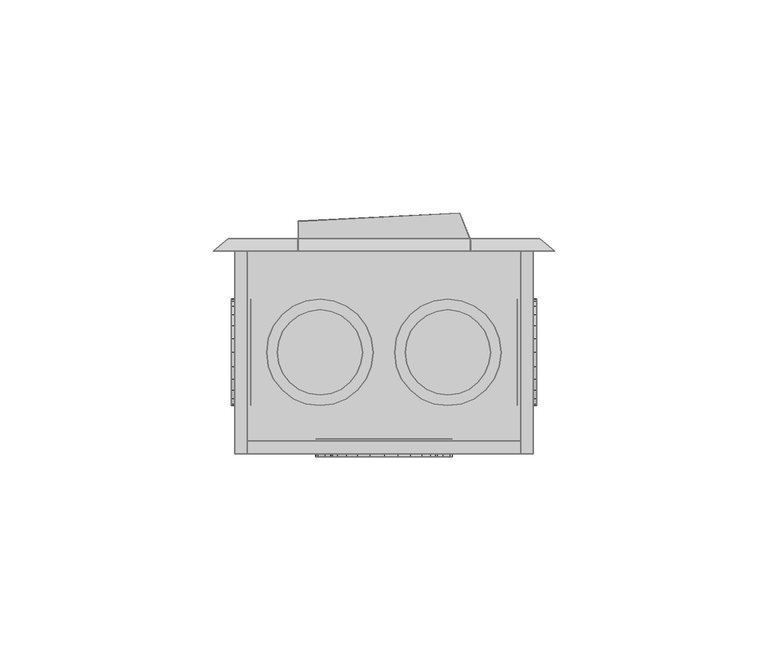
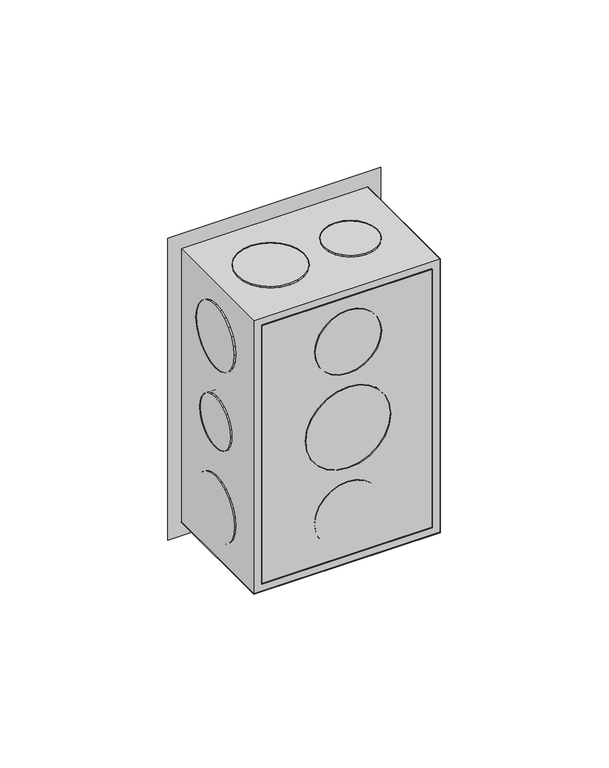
"""IFC4 building model written with IfcOpenShell, lengths in millimetres: proxy geometry,  210487 :  210487."""

from ifc_helpers import new_model, si_unit, origin, place, context, project, spatial, triangles, source, transform, mapped, element, save


def generic_models_b771cfa3(model_context):
    return source(origin(), model_context, "Body", "Tessellation", [
        triangles([(31550.4997742, 15395.4998108, 1254.3000378), (31553.4995911, 15395.4998108, 1148.7000154), (31550.4997742, 15395.4998108, 1145.6999805), (31553.4995911, 15395.4998108, 1251.2999302), (31620.5001526, 15395.4998108, 1254.3000378), (31617.5003357, 15395.4998108, 1251.2999302), (31620.5001526, 15395.4998108, 1145.6999805), (31617.5003357, 15395.4998108, 1148.7000154), (31553.4995911, 15348.0003845, 1251.2999302), (31553.4995911, 15348.0003845, 1148.7000154), (31620.5001526, 15348.0003845, 1254.3000378), (31620.5001526, 15348.0003845, 1145.6999805), (31617.5003357, 15348.0003845, 1251.2999302), (31550.4997742, 15348.0003845, 1145.6999805), (31617.5003357, 15348.0003845, 1148.7000154), (31550.4997742, 15348.0003845, 1254.3000378), (31553.4995911, 15351.0002014, 1251.2999302), (31617.5003357, 15351.0002014, 1148.7000154), (31553.4995911, 15351.0002014, 1148.7000154), (31617.5003357, 15351.0002014, 1251.2999302), (31571.6008118, 15351.5001709, 1191.9999887), (31577.5004517, 15351.5001709, 1186.0999855), (31574.2006531, 15351.5001709, 1188.6999722), (31570.0009094, 15351.5001709, 1195.8999687), (31581.3002197, 15351.5001709, 1184.5000105), (31569.5009399, 15351.5001709, 1200.0000092), (31585.4999634, 15351.5001709, 1183.9999683), (31570.0009094, 15351.5001709, 1204.0999769), (31589.5997131, 15351.5001709, 1184.5000105), (31571.6008118, 15351.5001709, 1208.0000296), (31593.4994751, 15351.5001709, 1186.0999855), (31574.2006531, 15351.5001709, 1211.2999735), (31596.7992737, 15351.5001709, 1188.6999722), (31577.5004517, 15351.5001709, 1213.9000328), (31599.2991211, 15351.5001709, 1191.9999887), (31581.3002197, 15351.5001709, 1215.5000078), (31600.8990234, 15351.5001709, 1195.8999687), (31585.4999634, 15351.5001709, 1215.9999773), (31601.4989868, 15351.5001709, 1200.0000092), (31589.5997131, 15351.5001709, 1215.5000078), (31600.8990234, 15351.5001709, 1204.0999769), (31593.4994751, 15351.5001709, 1213.9000328), (31599.2991211, 15351.5001709, 1208.0000296), (31596.7992737, 15351.5001709, 1211.2999735), (31589.5997131, 15347.3004272, 1184.5000105), (31585.4999634, 15347.3004272, 1183.9999683), (31581.3002197, 15347.3004272, 1184.5000105), (31577.5004517, 15347.3004272, 1186.0999855), (31574.2006531, 15347.3004272, 1188.6999722), (31571.6008118, 15347.3004272, 1191.9999887), (31570.0009094, 15347.3004272, 1195.8999687), (31569.5009399, 15347.3004272, 1200.0000092), (31570.0009094, 15347.3004272, 1204.0999769), (31571.6008118, 15347.3004272, 1208.0000296), (31574.2006531, 15347.3004272, 1211.2999735), (31577.5004517, 15347.3004272, 1213.9000328), (31581.3002197, 15347.3004272, 1215.5000078), (31585.4999634, 15347.3004272, 1215.9999773), (31589.5997131, 15347.3004272, 1215.5000078), (31593.4994751, 15347.3004272, 1213.9000328), (31596.7992737, 15347.3004272, 1211.2999735), (31599.2991211, 15347.3004272, 1208.0000296), (31600.8990234, 15347.3004272, 1204.0999769), (31601.4989868, 15347.3004272, 1200.0000092), (31600.8990234, 15347.3004272, 1195.8999687), (31599.2991211, 15347.3004272, 1191.9999887), (31596.7992737, 15347.3004272, 1188.6999722), (31593.4994751, 15347.3004272, 1186.0999855), (31574.6006287, 15351.5001709, 1227.8000565), (31579.2003479, 15351.5001709, 1223.2000465), (31576.6005066, 15351.5001709, 1225.2000698), (31573.4007019, 15351.5001709, 1230.8000187), (31582.2001648, 15351.5001709, 1221.8999805), (31573.0007263, 15351.5001709, 1233.9999687), (31585.4999634, 15351.5001709, 1221.500005), (31573.4007019, 15351.5001709, 1237.2000641), (31588.6997681, 15351.5001709, 1221.8999805), (31574.6006287, 15351.5001709, 1240.3000202), (31591.699585, 15351.5001709, 1223.2000465), (31576.6005066, 15351.5001709, 1242.800013), (31594.2994263, 15351.5001709, 1225.2000698), (31596.2993042, 15351.5001709, 1227.8000565), (31579.2003479, 15351.5001709, 1244.8000362), (31582.2001648, 15351.5001709, 1246.0999569), (31597.499231, 15351.5001709, 1230.8000187), (31585.4999634, 15351.5001709, 1246.4999325), (31597.9992004, 15351.5001709, 1233.9999687), (31588.6997681, 15351.5001709, 1246.0999569), (31597.499231, 15351.5001709, 1237.2000641), (31596.2993042, 15351.5001709, 1240.3000202), (31591.699585, 15351.5001709, 1244.8000362), (31594.2994263, 15351.5001709, 1242.800013), (31597.499231, 15347.3004272, 1230.8000187), (31596.2993042, 15347.3004272, 1227.8000565), (31594.2994263, 15347.3004272, 1225.2000698), (31591.699585, 15347.3004272, 1223.2000465), (31588.6997681, 15347.3004272, 1221.8999805), (31585.4999634, 15347.3004272, 1221.500005), (31582.2001648, 15347.3004272, 1221.8999805), (31579.2003479, 15347.3004272, 1223.2000465), (31576.6005066, 15347.3004272, 1225.2000698), (31574.6006287, 15347.3004272, 1227.8000565), (31573.4007019, 15347.3004272, 1230.8000187), (31573.0007263, 15347.3004272, 1233.9999687), (31573.4007019, 15347.3004272, 1237.2000641), (31574.6006287, 15347.3004272, 1240.3000202), (31576.6005066, 15347.3004272, 1242.800013), (31579.2003479, 15347.3004272, 1244.8000362), (31582.2001648, 15347.3004272, 1246.0999569), (31585.4999634, 15347.3004272, 1246.4999325), (31588.6997681, 15347.3004272, 1246.0999569), (31591.699585, 15347.3004272, 1244.8000362), (31594.2994263, 15347.3004272, 1242.800013), (31596.2993042, 15347.3004272, 1240.3000202), (31597.499231, 15347.3004272, 1237.2000641), (31597.9992004, 15347.3004272, 1233.9999687), (31579.2003479, 15347.3004272, 1155.1999821), (31574.6006287, 15347.3004272, 1159.6999981), (31576.6005066, 15347.3004272, 1157.2000053), (31582.2001648, 15347.3004272, 1153.8999887), (31573.4007019, 15347.3004272, 1162.8000269), (31585.4999634, 15347.3004272, 1153.5000132), (31573.0007263, 15347.3004272, 1165.9999769), (31588.6997681, 15347.3004272, 1153.8999887), (31573.4007019, 15347.3004272, 1169.1999996), (31591.699585, 15347.3004272, 1155.1999821), (31574.6006287, 15347.3004272, 1172.2000345), (31594.2994263, 15347.3004272, 1157.2000053), (31576.6005066, 15347.3004272, 1174.8000212), (31596.2993042, 15347.3004272, 1159.6999981), (31579.2003479, 15347.3004272, 1176.7999718), (31597.499231, 15347.3004272, 1162.8000269), (31582.2001648, 15347.3004272, 1178.0999651), (31585.4999634, 15347.3004272, 1178.5000134), (31597.9992004, 15347.3004272, 1165.9999769), (31597.499231, 15347.3004272, 1169.1999996), (31588.6997681, 15347.3004272, 1178.0999651), (31596.2993042, 15347.3004272, 1172.2000345), (31591.699585, 15347.3004272, 1176.7999718), (31594.2994263, 15347.3004272, 1174.8000212), (31582.2001648, 15351.5001709, 1178.0999651), (31585.4999634, 15351.5001709, 1178.5000134), (31579.2003479, 15351.5001709, 1176.7999718), (31576.6005066, 15351.5001709, 1174.8000212), (31574.6006287, 15351.5001709, 1172.2000345), (31573.4007019, 15351.5001709, 1169.1999996), (31573.0007263, 15351.5001709, 1165.9999769), (31573.4007019, 15351.5001709, 1162.8000269), (31574.6006287, 15351.5001709, 1159.6999981), (31576.6005066, 15351.5001709, 1157.2000053), (31579.2003479, 15351.5001709, 1155.1999821), (31582.2001648, 15351.5001709, 1153.8999887), (31585.4999634, 15351.5001709, 1153.5000132), (31588.6997681, 15351.5001709, 1153.8999887), (31591.699585, 15351.5001709, 1155.1999821), (31594.2994263, 15351.5001709, 1157.2000053), (31596.2993042, 15351.5001709, 1159.6999981), (31597.499231, 15351.5001709, 1162.8000269), (31597.9992004, 15351.5001709, 1165.9999769), (31597.499231, 15351.5001709, 1169.1999996), (31596.2993042, 15351.5001709, 1172.2000345), (31594.2994263, 15351.5001709, 1174.8000212), (31591.699585, 15351.5001709, 1176.7999718), (31588.6997681, 15351.5001709, 1178.0999651), (31554.2995422, 15366.8003998, 1191.3000315), (31554.2995422, 15363.0994629, 1195.0000237), (31554.2995422, 15364.700528, 1192.9000065), (31554.2995422, 15362.0995239, 1197.4000225), (31554.2995422, 15369.2002533, 1190.3000198), (31554.2995422, 15361.7995422, 1200.0000092), (31554.2995422, 15371.8000946, 1189.9999655), (31554.2995422, 15374.299942, 1190.3000198), (31554.2995422, 15362.0995239, 1202.5999958), (31554.2995422, 15363.0994629, 1204.9999947), (31554.2995422, 15376.7997894, 1191.3000315), (31554.2995422, 15364.700528, 1207.1000118), (31554.2995422, 15378.7996674, 1192.9000065), (31554.2995422, 15380.3995697, 1195.0000237), (31554.2995422, 15366.8003998, 1208.6999868), (31554.2995422, 15381.3995087, 1197.4000225), (31554.2995422, 15369.2002533, 1209.6999985), (31554.2995422, 15381.7994843, 1200.0000092), (31554.2995422, 15371.8000946, 1209.9999802), (31554.2995422, 15381.3995087, 1202.5999958), (31554.2995422, 15374.299942, 1209.6999985), (31554.2995422, 15376.7997894, 1208.6999868), (31554.2995422, 15380.3995697, 1204.9999947), (31554.2995422, 15378.7996674, 1207.1000118), (31549.699823, 15371.8000946, 1189.9999655), (31549.699823, 15369.2002533, 1190.3000198), (31549.699823, 15374.299942, 1190.3000198), (31549.699823, 15376.7997894, 1191.3000315), (31549.699823, 15378.7996674, 1192.9000065), (31549.699823, 15380.3995697, 1195.0000237), (31549.699823, 15381.3995087, 1197.4000225), (31549.699823, 15381.7994843, 1200.0000092), (31549.699823, 15381.3995087, 1202.5999958), (31549.699823, 15380.3995697, 1204.9999947), (31549.699823, 15378.7996674, 1207.1000118), (31549.699823, 15376.7997894, 1208.6999868), (31549.699823, 15374.299942, 1209.6999985), (31549.699823, 15371.8000946, 1209.9999802), (31549.699823, 15369.2002533, 1209.6999985), (31549.699823, 15366.8003998, 1208.6999868), (31549.699823, 15364.700528, 1207.1000118), (31549.699823, 15363.0994629, 1204.9999947), (31549.699823, 15362.0995239, 1202.5999958), (31549.699823, 15361.7995422, 1200.0000092), (31549.699823, 15362.0995239, 1197.4000225), (31549.699823, 15363.0994629, 1195.0000237), (31549.699823, 15364.700528, 1192.9000065), (31549.699823, 15366.8003998, 1191.3000315), (31554.2995422, 15365.5004791, 1223.2000465), (31554.2995422, 15360.8995972, 1227.8000565), (31554.2995422, 15362.8994751, 1225.2000698), (31554.2995422, 15368.500296, 1221.8999805), (31554.2995422, 15359.6996704, 1230.8000187), (31554.2995422, 15359.2996948, 1233.9999687), (31554.2995422, 15371.8000946, 1221.500005), (31554.2995422, 15374.9998993, 1221.8999805), (31554.2995422, 15359.6996704, 1237.2000641), (31554.2995422, 15360.8995972, 1240.3000202), (31554.2995422, 15377.9997162, 1223.2000465), (31554.2995422, 15380.5995575, 1225.2000698), (31554.2995422, 15362.8994751, 1242.800013), (31554.2995422, 15382.5994354, 1227.8000565), (31554.2995422, 15365.5004791, 1244.8000362), (31554.2995422, 15383.8005249, 1230.8000187), (31554.2995422, 15368.500296, 1246.0999569), (31554.2995422, 15384.3004944, 1233.9999687), (31554.2995422, 15371.8000946, 1246.4999325), (31554.2995422, 15383.8005249, 1237.2000641), (31554.2995422, 15374.9998993, 1246.0999569), (31554.2995422, 15382.5994354, 1240.3000202), (31554.2995422, 15377.9997162, 1244.8000362), (31554.2995422, 15380.5995575, 1242.800013), (31549.699823, 15371.8000946, 1221.500005), (31549.699823, 15368.500296, 1221.8999805), (31549.699823, 15374.9998993, 1221.8999805), (31549.699823, 15377.9997162, 1223.2000465), (31549.699823, 15380.5995575, 1225.2000698), (31549.699823, 15382.5994354, 1227.8000565), (31549.699823, 15383.8005249, 1230.8000187), (31549.699823, 15384.3004944, 1233.9999687), (31549.699823, 15383.8005249, 1237.2000641), (31549.699823, 15382.5994354, 1240.3000202), (31549.699823, 15380.5995575, 1242.800013), (31549.699823, 15377.9997162, 1244.8000362), (31549.699823, 15374.9998993, 1246.0999569), (31549.699823, 15371.8000946, 1246.4999325), (31549.699823, 15368.500296, 1246.0999569), (31549.699823, 15365.5004791, 1244.8000362), (31549.699823, 15362.8994751, 1242.800013), (31549.699823, 15360.8995972, 1240.3000202), (31549.699823, 15359.6996704, 1237.2000641), (31549.699823, 15359.2996948, 1233.9999687), (31549.699823, 15359.6996704, 1230.8000187), (31549.699823, 15360.8995972, 1227.8000565), (31549.699823, 15362.8994751, 1225.2000698), (31549.699823, 15365.5004791, 1223.2000465), (31549.699823, 15360.8995972, 1159.6999981), (31549.699823, 15365.5004791, 1155.1999821), (31549.699823, 15362.8994751, 1157.2000053), (31549.699823, 15359.6996704, 1162.8000269), (31549.699823, 15368.500296, 1153.8999887), (31549.699823, 15359.2996948, 1165.9999769), (31549.699823, 15371.8000946, 1153.5000132), (31549.699823, 15359.6996704, 1169.1999996), (31549.699823, 15374.9998993, 1153.8999887), (31549.699823, 15360.8995972, 1172.2000345), (31549.699823, 15377.9997162, 1155.1999821), (31549.699823, 15362.8994751, 1174.8000212), (31549.699823, 15380.5995575, 1157.2000053), (31549.699823, 15365.5004791, 1176.7999718), (31549.699823, 15382.5994354, 1159.6999981), (31549.699823, 15368.500296, 1178.0999651), (31549.699823, 15383.8005249, 1162.8000269), (31549.699823, 15371.8000946, 1178.5000134), (31549.699823, 15384.3004944, 1165.9999769), (31549.699823, 15374.9998993, 1178.0999651), (31549.699823, 15383.8005249, 1169.1999996), (31549.699823, 15377.9997162, 1176.7999718), (31549.699823, 15382.5994354, 1172.2000345), (31549.699823, 15380.5995575, 1174.8000212), (31554.2995422, 15368.500296, 1178.0999651), (31554.2995422, 15371.8000946, 1178.5000134), (31554.2995422, 15374.9998993, 1178.0999651), (31554.2995422, 15377.9997162, 1176.7999718), (31554.2995422, 15380.5995575, 1174.8000212), (31554.2995422, 15382.5994354, 1172.2000345), (31554.2995422, 15383.8005249, 1169.1999996), (31554.2995422, 15384.3004944, 1165.9999769), (31554.2995422, 15383.8005249, 1162.8000269), (31554.2995422, 15382.5994354, 1159.6999981), (31554.2995422, 15380.5995575, 1157.2000053), (31554.2995422, 15377.9997162, 1155.1999821), (31554.2995422, 15374.9998993, 1153.8999887), (31554.2995422, 15371.8000946, 1153.5000132), (31554.2995422, 15368.500296, 1153.8999887), (31554.2995422, 15365.5004791, 1155.1999821), (31554.2995422, 15362.8994751, 1157.2000053), (31554.2995422, 15360.8995972, 1159.6999981), (31554.2995422, 15359.6996704, 1162.8000269), (31554.2995422, 15359.2996948, 1165.9999769), (31554.2995422, 15359.6996704, 1169.1999996), (31554.2995422, 15360.8995972, 1172.2000345), (31554.2995422, 15362.8994751, 1174.8000212), (31554.2995422, 15365.5004791, 1176.7999718), (31616.7003845, 15363.0994629, 1195.0000237), (31616.7003845, 15366.8003998, 1191.3000315), (31616.7003845, 15364.700528, 1192.9000065), (31616.7003845, 15362.0995239, 1197.4000225), (31616.7003845, 15369.2002533, 1190.3000198), (31616.7003845, 15361.7995422, 1200.0000092), (31616.7003845, 15371.8000946, 1189.9999655), (31616.7003845, 15362.0995239, 1202.5999958), (31616.7003845, 15374.299942, 1190.3000198), (31616.7003845, 15363.0994629, 1204.9999947), (31616.7003845, 15376.7997894, 1191.3000315), (31616.7003845, 15364.700528, 1207.1000118), (31616.7003845, 15378.7996674, 1192.9000065), (31616.7003845, 15366.8003998, 1208.6999868), (31616.7003845, 15380.3995697, 1195.0000237), (31616.7003845, 15369.2002533, 1209.6999985), (31616.7003845, 15381.3995087, 1197.4000225), (31616.7003845, 15381.7994843, 1200.0000092), (31616.7003845, 15371.8000946, 1209.9999802), (31616.7003845, 15374.299942, 1209.6999985), (31616.7003845, 15381.3995087, 1202.5999958), (31616.7003845, 15376.7997894, 1208.6999868), (31616.7003845, 15380.3995697, 1204.9999947), (31616.7003845, 15378.7996674, 1207.1000118), (31621.3001038, 15369.2002533, 1209.6999985), (31621.3001038, 15371.8000946, 1209.9999802), (31621.3001038, 15374.299942, 1209.6999985), (31621.3001038, 15376.7997894, 1208.6999868), (31621.3001038, 15378.7996674, 1207.1000118), (31621.3001038, 15380.3995697, 1204.9999947), (31621.3001038, 15381.3995087, 1202.5999958), (31621.3001038, 15381.7994843, 1200.0000092), (31621.3001038, 15381.3995087, 1197.4000225), (31621.3001038, 15380.3995697, 1195.0000237), (31621.3001038, 15378.7996674, 1192.9000065), (31621.3001038, 15376.7997894, 1191.3000315), (31621.3001038, 15374.299942, 1190.3000198), (31621.3001038, 15371.8000946, 1189.9999655), (31621.3001038, 15369.2002533, 1190.3000198), (31621.3001038, 15366.8003998, 1191.3000315), (31621.3001038, 15364.700528, 1192.9000065), (31621.3001038, 15363.0994629, 1195.0000237), (31621.3001038, 15362.0995239, 1197.4000225), (31621.3001038, 15361.7995422, 1200.0000092), (31621.3001038, 15362.0995239, 1202.5999958), (31621.3001038, 15363.0994629, 1204.9999947), (31621.3001038, 15364.700528, 1207.1000118), (31621.3001038, 15366.8003998, 1208.6999868), (31616.7003845, 15360.8995972, 1159.6999981), (31616.7003845, 15365.5004791, 1155.1999821), (31616.7003845, 15362.8994751, 1157.2000053), (31616.7003845, 15359.6996704, 1162.8000269), (31616.7003845, 15368.500296, 1153.8999887), (31616.7003845, 15359.2996948, 1165.9999769), (31616.7003845, 15371.8000946, 1153.5000132), (31616.7003845, 15359.6996704, 1169.1999996), (31616.7003845, 15374.9998993, 1153.8999887), (31616.7003845, 15360.8995972, 1172.2000345), (31616.7003845, 15377.9997162, 1155.1999821), (31616.7003845, 15362.8994751, 1174.8000212), (31616.7003845, 15380.5995575, 1157.2000053), (31616.7003845, 15365.5004791, 1176.7999718), (31616.7003845, 15382.5994354, 1159.6999981), (31616.7003845, 15368.500296, 1178.0999651), (31616.7003845, 15383.8005249, 1162.8000269), (31616.7003845, 15371.8000946, 1178.5000134), (31616.7003845, 15384.3004944, 1165.9999769), (31616.7003845, 15374.9998993, 1178.0999651), (31616.7003845, 15383.8005249, 1169.1999996), (31616.7003845, 15377.9997162, 1176.7999718), (31616.7003845, 15382.5994354, 1172.2000345), (31616.7003845, 15380.5995575, 1174.8000212), (31621.3001038, 15368.500296, 1178.0999651), (31621.3001038, 15371.8000946, 1178.5000134), (31621.3001038, 15374.9998993, 1178.0999651), (31621.3001038, 15377.9997162, 1176.7999718), (31621.3001038, 15380.5995575, 1174.8000212), (31621.3001038, 15382.5994354, 1172.2000345), (31621.3001038, 15383.8005249, 1169.1999996), (31621.3001038, 15384.3004944, 1165.9999769), (31621.3001038, 15383.8005249, 1162.8000269), (31621.3001038, 15382.5994354, 1159.6999981), (31621.3001038, 15380.5995575, 1157.2000053), (31621.3001038, 15377.9997162, 1155.1999821), (31621.3001038, 15374.9998993, 1153.8999887), (31621.3001038, 15371.8000946, 1153.5000132), (31621.3001038, 15368.500296, 1153.8999887), (31621.3001038, 15365.5004791, 1155.1999821), (31621.3001038, 15362.8994751, 1157.2000053), (31621.3001038, 15360.8995972, 1159.6999981), (31621.3001038, 15359.6996704, 1162.8000269), (31621.3001038, 15359.2996948, 1165.9999769), (31621.3001038, 15359.6996704, 1169.1999996), (31621.3001038, 15360.8995972, 1172.2000345), (31621.3001038, 15362.8994751, 1174.8000212), (31621.3001038, 15365.5004791, 1176.7999718), (31621.3001038, 15365.5004791, 1223.2000465), (31621.3001038, 15360.8995972, 1227.8000565), (31621.3001038, 15362.8994751, 1225.2000698), (31621.3001038, 15368.500296, 1221.8999805), (31621.3001038, 15359.6996704, 1230.8000187), (31621.3001038, 15359.2996948, 1233.9999687), (31621.3001038, 15371.8000946, 1221.500005), (31621.3001038, 15374.9998993, 1221.8999805), (31621.3001038, 15359.6996704, 1237.2000641), (31621.3001038, 15360.8995972, 1240.3000202), (31621.3001038, 15377.9997162, 1223.2000465), (31621.3001038, 15380.5995575, 1225.2000698), (31621.3001038, 15362.8994751, 1242.800013), (31621.3001038, 15382.5994354, 1227.8000565), (31621.3001038, 15365.5004791, 1244.8000362), (31621.3001038, 15383.8005249, 1230.8000187), (31621.3001038, 15368.500296, 1246.0999569), (31621.3001038, 15384.3004944, 1233.9999687), (31621.3001038, 15371.8000946, 1246.4999325), (31621.3001038, 15383.8005249, 1237.2000641), (31621.3001038, 15374.9998993, 1246.0999569), (31621.3001038, 15382.5994354, 1240.3000202), (31621.3001038, 15377.9997162, 1244.8000362), (31621.3001038, 15380.5995575, 1242.800013), (31616.7003845, 15371.8000946, 1221.500005), (31616.7003845, 15368.500296, 1221.8999805), (31616.7003845, 15374.9998993, 1221.8999805), (31616.7003845, 15377.9997162, 1223.2000465), (31616.7003845, 15380.5995575, 1225.2000698), (31616.7003845, 15382.5994354, 1227.8000565), (31616.7003845, 15383.8005249, 1230.8000187), (31616.7003845, 15384.3004944, 1233.9999687), (31616.7003845, 15383.8005249, 1237.2000641), (31616.7003845, 15382.5994354, 1240.3000202), (31616.7003845, 15380.5995575, 1242.800013), (31616.7003845, 15377.9997162, 1244.8000362), (31616.7003845, 15374.9998993, 1246.0999569), (31616.7003845, 15371.8000946, 1246.4999325), (31616.7003845, 15368.500296, 1246.0999569), (31616.7003845, 15365.5004791, 1244.8000362), (31616.7003845, 15362.8994751, 1242.800013), (31616.7003845, 15360.8995972, 1240.3000202), (31616.7003845, 15359.6996704, 1237.2000641), (31616.7003845, 15359.2996948, 1233.9999687), (31616.7003845, 15359.6996704, 1230.8000187), (31616.7003845, 15360.8995972, 1227.8000565), (31616.7003845, 15362.8994751, 1225.2000698), (31616.7003845, 15365.5004791, 1223.2000465), (31559.5992188, 15365.5004791, 1250.9999485), (31564.198938, 15360.8995972, 1250.9999485), (31561.5990967, 15362.8994751, 1250.9999485), (31558.399292, 15368.500296, 1250.9999485), (31567.2010803, 15359.6996704, 1250.9999485), (31570.5008789, 15359.2996948, 1250.9999485), (31557.9993164, 15371.8000946, 1250.9999485), (31558.399292, 15374.9998993, 1250.9999485), (31573.7006836, 15359.6996704, 1250.9999485), (31576.7005005, 15360.8995972, 1250.9999485), (31559.5992188, 15377.9997162, 1250.9999485), (31561.5990967, 15380.5995575, 1250.9999485), (31579.3003418, 15362.8994751, 1250.9999485), (31581.3002197, 15365.5004791, 1250.9999485), (31564.198938, 15382.5994354, 1250.9999485), (31567.2010803, 15383.8005249, 1250.9999485), (31582.5001465, 15368.500296, 1250.9999485), (31570.5008789, 15384.3004944, 1250.9999485), (31583.000116, 15371.8000946, 1250.9999485), (31573.7006836, 15383.8005249, 1250.9999485), (31582.5001465, 15374.9998993, 1250.9999485), (31581.3002197, 15377.9997162, 1250.9999485), (31576.7005005, 15382.5994354, 1250.9999485), (31579.3003418, 15380.5995575, 1250.9999485), (31570.5008789, 15359.2996948, 1255.1999828), (31573.7006836, 15359.6996704, 1255.1999828), (31567.2010803, 15359.6996704, 1255.1999828), (31564.198938, 15360.8995972, 1255.1999828), (31561.5990967, 15362.8994751, 1255.1999828), (31559.5992188, 15365.5004791, 1255.1999828), (31558.399292, 15368.500296, 1255.1999828), (31557.9993164, 15371.8000946, 1255.1999828), (31558.399292, 15374.9998993, 1255.1999828), (31559.5992188, 15377.9997162, 1255.1999828), (31561.5990967, 15380.5995575, 1255.1999828), (31564.198938, 15382.5994354, 1255.1999828), (31567.2010803, 15383.8005249, 1255.1999828), (31570.5008789, 15384.3004944, 1255.1999828), (31573.7006836, 15383.8005249, 1255.1999828), (31576.7005005, 15382.5994354, 1255.1999828), (31579.3003418, 15380.5995575, 1255.1999828), (31581.3002197, 15377.9997162, 1255.1999828), (31582.5001465, 15374.9998993, 1255.1999828), (31583.000116, 15371.8000946, 1255.1999828), (31582.5001465, 15368.500296, 1255.1999828), (31581.3002197, 15365.5004791, 1255.1999828), (31579.3003418, 15362.8994751, 1255.1999828), (31576.7005005, 15360.8995972, 1255.1999828), (31591.7995789, 15366.8003998, 1250.9999485), (31595.499353, 15363.0994629, 1250.9999485), (31593.3994812, 15364.700528, 1250.9999485), (31597.8992065, 15362.0995239, 1250.9999485), (31590.7996399, 15369.2002533, 1250.9999485), (31600.4990479, 15361.7995422, 1250.9999485), (31590.4996582, 15371.8000946, 1250.9999485), (31590.7996399, 15374.299942, 1250.9999485), (31603.0988892, 15362.0995239, 1250.9999485), (31605.5010681, 15363.0994629, 1250.9999485), (31591.7995789, 15376.7997894, 1250.9999485), (31607.500946, 15364.700528, 1250.9999485), (31593.3994812, 15378.7996674, 1250.9999485), (31595.499353, 15380.3995697, 1250.9999485), (31609.1008484, 15366.8003998, 1250.9999485), (31610.1007874, 15369.2002533, 1250.9999485), (31597.8992065, 15381.3995087, 1250.9999485), (31600.4990479, 15381.7994843, 1250.9999485), (31610.5007629, 15371.8000946, 1250.9999485), (31603.0988892, 15381.3995087, 1250.9999485), (31610.1007874, 15374.299942, 1250.9999485), (31605.5010681, 15380.3995697, 1250.9999485), (31609.1008484, 15376.7997894, 1250.9999485), (31607.500946, 15378.7996674, 1250.9999485), (31603.0988892, 15362.0995239, 1255.1999828), (31605.5010681, 15363.0994629, 1255.1999828), (31600.4990479, 15361.7995422, 1255.1999828), (31597.8992065, 15362.0995239, 1255.1999828), (31595.499353, 15363.0994629, 1255.1999828), (31593.3994812, 15364.700528, 1255.1999828), (31591.7995789, 15366.8003998, 1255.1999828), (31590.7996399, 15369.2002533, 1255.1999828), (31590.4996582, 15371.8000946, 1255.1999828), (31590.7996399, 15374.299942, 1255.1999828), (31591.7995789, 15376.7997894, 1255.1999828), (31593.3994812, 15378.7996674, 1255.1999828), (31595.499353, 15380.3995697, 1255.1999828), (31597.8992065, 15381.3995087, 1255.1999828), (31600.4990479, 15381.7994843, 1255.1999828), (31603.0988892, 15381.3995087, 1255.1999828), (31605.5010681, 15380.3995697, 1255.1999828), (31607.500946, 15378.7996674, 1255.1999828), (31609.1008484, 15376.7997894, 1255.1999828), (31610.1007874, 15374.299942, 1255.1999828), (31610.5007629, 15371.8000946, 1255.1999828), (31610.1007874, 15369.2002533, 1255.1999828), (31609.1008484, 15366.8003998, 1255.1999828), (31607.500946, 15364.700528, 1255.1999828), (31561.7990845, 15366.8003998, 1144.8000355), (31565.4988586, 15363.0994629, 1144.8000355), (31563.3989868, 15364.700528, 1144.8000355), (31567.9010376, 15362.0995239, 1144.8000355), (31560.7991455, 15369.2002533, 1144.8000355), (31570.5008789, 15361.7995422, 1144.8000355), (31560.4991638, 15371.8000946, 1144.8000355), (31560.7991455, 15374.299942, 1144.8000355), (31573.1007202, 15362.0995239, 1144.8000355), (31575.5005737, 15363.0994629, 1144.8000355), (31561.7990845, 15376.7997894, 1144.8000355), (31577.5004517, 15364.700528, 1144.8000355), (31563.3989868, 15378.7996674, 1144.8000355), (31565.4988586, 15380.3995697, 1144.8000355), (31579.100354, 15366.8003998, 1144.8000355), (31580.100293, 15369.2002533, 1144.8000355), (31567.9010376, 15381.3995087, 1144.8000355), (31570.5008789, 15381.7994843, 1144.8000355), (31580.5002686, 15371.8000946, 1144.8000355), (31573.1007202, 15381.3995087, 1144.8000355), (31580.100293, 15374.299942, 1144.8000355), (31575.5005737, 15380.3995697, 1144.8000355), (31579.100354, 15376.7997894, 1144.8000355), (31577.5004517, 15378.7996674, 1144.8000355), (31567.9010376, 15362.0995239, 1149.099991), (31570.5008789, 15361.7995422, 1149.099991), (31565.4988586, 15363.0994629, 1149.099991), (31563.3989868, 15364.700528, 1149.099991), (31561.7990845, 15366.8003998, 1149.099991), (31560.7991455, 15369.2002533, 1149.099991), (31560.4991638, 15371.8000946, 1149.099991), (31560.7991455, 15374.299942, 1149.099991), (31561.7990845, 15376.7997894, 1149.099991), (31563.3989868, 15378.7996674, 1149.099991), (31565.4988586, 15380.3995697, 1149.099991), (31567.9010376, 15381.3995087, 1149.099991), (31570.5008789, 15381.7994843, 1149.099991), (31573.1007202, 15381.3995087, 1149.099991), (31575.5005737, 15380.3995697, 1149.099991), (31577.5004517, 15378.7996674, 1149.099991), (31579.100354, 15376.7997894, 1149.099991), (31580.100293, 15374.299942, 1149.099991), (31580.5002686, 15371.8000946, 1149.099991), (31580.100293, 15369.2002533, 1149.099991), (31579.100354, 15366.8003998, 1149.099991), (31577.5004517, 15364.700528, 1149.099991), (31575.5005737, 15363.0994629, 1149.099991), (31573.1007202, 15362.0995239, 1149.099991), (31589.5997131, 15365.5004791, 1144.8000355), (31594.1994324, 15360.8995972, 1144.8000355), (31591.5995911, 15362.8994751, 1144.8000355), (31588.3997864, 15368.500296, 1144.8000355), (31597.1992493, 15359.6996704, 1144.8000355), (31600.4990479, 15359.2996948, 1144.8000355), (31587.9998108, 15371.8000946, 1144.8000355), (31588.3997864, 15374.9998993, 1144.8000355), (31603.6988525, 15359.6996704, 1144.8000355), (31606.7009949, 15360.8995972, 1144.8000355), (31589.5997131, 15377.9997162, 1144.8000355), (31591.5995911, 15380.5995575, 1144.8000355), (31609.3008362, 15362.8994751, 1144.8000355), (31611.3007141, 15365.5004791, 1144.8000355), (31594.1994324, 15382.5994354, 1144.8000355), (31597.1992493, 15383.8005249, 1144.8000355), (31612.5006409, 15368.500296, 1144.8000355), (31600.4990479, 15384.3004944, 1144.8000355), (31613.0006104, 15371.8000946, 1144.8000355), (31603.6988525, 15383.8005249, 1144.8000355), (31612.5006409, 15374.9998993, 1144.8000355), (31611.3007141, 15377.9997162, 1144.8000355), (31606.7009949, 15382.5994354, 1144.8000355), (31609.3008362, 15380.5995575, 1144.8000355), (31603.6988525, 15359.6996704, 1149.099991), (31606.7009949, 15360.8995972, 1149.099991), (31600.4990479, 15359.2996948, 1149.099991), (31597.1992493, 15359.6996704, 1149.099991), (31594.1994324, 15360.8995972, 1149.099991), (31591.5995911, 15362.8994751, 1149.099991), (31589.5997131, 15365.5004791, 1149.099991), (31588.3997864, 15368.500296, 1149.099991), (31587.9998108, 15371.8000946, 1149.099991), (31588.3997864, 15374.9998993, 1149.099991), (31589.5997131, 15377.9997162, 1149.099991), (31591.5995911, 15380.5995575, 1149.099991), (31594.1994324, 15382.5994354, 1149.099991), (31597.1992493, 15383.8005249, 1149.099991), (31600.4990479, 15384.3004944, 1149.099991), (31603.6988525, 15383.8005249, 1149.099991), (31606.7009949, 15382.5994354, 1149.099991), (31609.3008362, 15380.5995575, 1149.099991), (31611.3007141, 15377.9997162, 1149.099991), (31612.5006409, 15374.9998993, 1149.099991), (31613.0006104, 15371.8000946, 1149.099991), (31612.5006409, 15368.500296, 1149.099991), (31611.3007141, 15365.5004791, 1149.099991), (31609.3008362, 15362.8994751, 1149.099991), (31625.4998474, 15395.4998108, 1139.9999651), (31565.2988708, 15395.4998108, 1188.2999966), (31545.5000793, 15395.4998108, 1139.9999651), (31605.7010559, 15395.4998108, 1188.2999966), (31625.4998474, 15395.4998108, 1259.9999805), (31605.7010559, 15395.4998108, 1211.7000217), (31545.5000793, 15395.4998108, 1259.9999805), (31565.2988708, 15395.4998108, 1211.7000217), (31605.7010559, 15398.4996277, 1188.2999966), (31605.7010559, 15398.4996277, 1211.7000217), (31565.2988708, 15398.4996277, 1188.2999966), (31565.2988708, 15398.4996277, 1211.7000217), (31548.9998657, 15398.4996277, 1143.4999695), (31548.9998657, 15398.4996277, 1256.5000488), (31622.000061, 15398.4996277, 1143.4999695), (31622.000061, 15398.4996277, 1256.5000488), (31565.3988647, 15402.5005463, 1188.1000088), (31605.8010498, 15395.4998108, 1188.1000088), (31565.3988647, 15395.4998108, 1188.1000088), (31603.1988831, 15404.4004303, 1188.1000088), (31605.8010498, 15397.9996582, 1188.1000088), (31565.3988647, 15395.4998108, 1211.500034), (31605.8010498, 15395.4998108, 1211.500034), (31565.3988647, 15402.5005463, 1211.500034), (31603.1988831, 15404.4004303, 1211.500034), (31605.8010498, 15397.9996582, 1211.500034)], [[1, 2, 3], [2, 1, 4], [5, 4, 1], [4, 5, 6], [3, 2, 7], [7, 2, 8], [7, 8, 6], [7, 6, 5], [2, 9, 10], [9, 2, 4], [7, 11, 12], [11, 7, 5], [4, 13, 9], [13, 4, 6], [3, 12, 14], [12, 3, 7], [13, 8, 15], [8, 13, 6], [16, 3, 14], [3, 16, 1], [15, 2, 10], [2, 15, 8], [11, 1, 16], [1, 11, 5], [12, 10, 14], [10, 12, 15], [11, 15, 12], [15, 11, 13], [14, 10, 16], [16, 10, 9], [16, 9, 13], [16, 13, 11], [17, 18, 19], [18, 17, 20], [18, 13, 15], [13, 18, 20], [19, 15, 10], [15, 19, 18], [9, 19, 10], [19, 9, 17], [13, 17, 9], [17, 13, 20], [15, 9, 10], [9, 15, 13], [21, 22, 23], [22, 21, 24], [25, 22, 24], [25, 24, 26], [27, 25, 26], [27, 26, 28], [29, 27, 28], [29, 28, 30], [31, 29, 30], [31, 30, 32], [31, 32, 33], [33, 32, 34], [33, 34, 35], [35, 34, 36], [35, 36, 37], [37, 36, 38], [37, 38, 39], [39, 38, 40], [39, 40, 41], [41, 40, 42], [41, 42, 43], [43, 42, 44], [27, 45, 46], [45, 27, 29], [25, 46, 47], [46, 25, 27], [22, 47, 48], [47, 22, 25], [23, 48, 49], [48, 23, 22], [50, 23, 49], [23, 50, 21], [51, 21, 50], [21, 51, 24], [52, 24, 51], [24, 52, 26], [53, 26, 52], [26, 53, 28], [54, 28, 53], [28, 54, 30], [55, 30, 54], [30, 55, 32], [56, 32, 55], [32, 56, 34], [57, 34, 56], [34, 57, 36], [58, 36, 57], [36, 58, 38], [59, 38, 58], [38, 59, 40], [60, 40, 59], [40, 60, 42], [61, 42, 60], [42, 61, 44], [43, 61, 62], [61, 43, 44], [41, 62, 63], [62, 41, 43], [39, 63, 64], [63, 39, 41], [37, 64, 65], [64, 37, 39], [35, 65, 66], [65, 35, 37], [33, 66, 67], [66, 33, 35], [31, 67, 68], [67, 31, 33], [29, 68, 45], [68, 29, 31], [48, 50, 49], [50, 48, 47], [51, 50, 47], [51, 47, 46], [52, 51, 46], [52, 46, 45], [53, 52, 45], [53, 45, 68], [54, 53, 68], [54, 68, 67], [54, 67, 55], [55, 67, 66], [55, 66, 56], [56, 66, 65], [56, 65, 57], [57, 65, 64], [57, 64, 58], [58, 64, 63], [58, 63, 59], [59, 63, 62], [59, 62, 60], [60, 62, 61], [69, 70, 71], [70, 69, 72], [73, 70, 72], [73, 72, 74], [75, 73, 74], [75, 74, 76], [77, 75, 76], [77, 76, 78], [79, 77, 78], [79, 78, 80], [81, 79, 80], [81, 80, 82], [82, 80, 83], [82, 83, 84], [82, 84, 85], [85, 84, 86], [85, 86, 87], [87, 86, 88], [87, 88, 89], [89, 88, 90], [90, 88, 91], [90, 91, 92], [82, 93, 94], [93, 82, 85], [81, 94, 95], [94, 81, 82], [79, 95, 96], [95, 79, 81], [77, 96, 97], [96, 77, 79], [75, 97, 98], [97, 75, 77], [73, 98, 99], [98, 73, 75], [70, 99, 100], [99, 70, 73], [71, 100, 101], [100, 71, 70], [102, 71, 101], [71, 102, 69], [103, 69, 102], [69, 103, 72], [104, 72, 103], [72, 104, 74], [105, 74, 104], [74, 105, 76], [106, 76, 105], [76, 106, 78], [107, 78, 106], [78, 107, 80], [108, 80, 107], [80, 108, 83], [109, 83, 108], [83, 109, 84], [110, 84, 109], [84, 110, 86], [111, 86, 110], [86, 111, 88], [112, 88, 111], [88, 112, 91], [113, 91, 112], [91, 113, 92], [90, 113, 114], [113, 90, 92], [89, 114, 115], [114, 89, 90], [87, 115, 116], [115, 87, 89], [85, 116, 93], [116, 85, 87], [100, 102, 101], [102, 100, 99], [103, 102, 99], [103, 99, 98], [104, 103, 98], [104, 98, 97], [105, 104, 97], [106, 105, 97], [106, 97, 96], [106, 96, 95], [106, 95, 107], [107, 95, 94], [107, 94, 108], [108, 94, 93], [108, 93, 109], [109, 93, 116], [109, 116, 110], [110, 116, 115], [110, 115, 111], [111, 115, 114], [111, 114, 112], [112, 114, 113], [117, 118, 119], [118, 117, 120], [121, 118, 120], [121, 120, 122], [123, 121, 122], [123, 122, 124], [125, 123, 124], [125, 124, 126], [127, 125, 126], [127, 126, 128], [127, 128, 129], [129, 128, 130], [129, 130, 131], [131, 130, 132], [131, 132, 133], [133, 132, 134], [134, 132, 135], [134, 135, 136], [134, 136, 137], [137, 136, 138], [137, 138, 139], [139, 138, 140], [134, 141, 133], [141, 134, 142], [133, 143, 131], [143, 133, 141], [131, 144, 129], [144, 131, 143], [129, 145, 127], [145, 129, 144], [127, 146, 125], [146, 127, 145], [125, 147, 123], [147, 125, 146], [123, 148, 121], [148, 123, 147], [121, 149, 118], [149, 121, 148], [118, 150, 119], [150, 118, 149], [150, 117, 119], [117, 150, 151], [151, 120, 117], [120, 151, 152], [152, 122, 120], [122, 152, 153], [153, 124, 122], [124, 153, 154], [154, 126, 124], [126, 154, 155], [155, 128, 126], [128, 155, 156], [156, 130, 128], [130, 156, 157], [157, 132, 130], [132, 157, 158], [158, 135, 132], [135, 158, 159], [159, 136, 135], [136, 159, 160], [160, 138, 136], [138, 160, 161], [161, 140, 138], [140, 161, 162], [140, 163, 139], [163, 140, 162], [139, 164, 137], [164, 139, 163], [137, 142, 134], [142, 137, 164], [149, 151, 150], [151, 149, 148], [152, 151, 148], [153, 152, 148], [153, 148, 147], [153, 147, 146], [154, 153, 146], [154, 146, 145], [155, 154, 145], [155, 145, 144], [156, 155, 144], [156, 144, 157], [157, 144, 143], [157, 143, 141], [157, 141, 158], [158, 141, 142], [158, 142, 159], [159, 142, 164], [159, 164, 160], [160, 164, 163], [160, 163, 161], [161, 163, 162], [165, 166, 167], [168, 166, 165], [168, 165, 169], [170, 168, 169], [170, 169, 171], [170, 171, 172], [173, 170, 172], [174, 173, 172], [174, 172, 175], [176, 174, 175], [176, 175, 177], [176, 177, 178], [176, 178, 179], [179, 178, 180], [179, 180, 181], [181, 180, 182], [181, 182, 183], [183, 182, 184], [183, 184, 185], [185, 184, 186], [186, 184, 187], [186, 187, 188], [189, 169, 190], [169, 189, 171], [191, 171, 189], [171, 191, 172], [192, 172, 191], [172, 192, 175], [193, 175, 192], [175, 193, 177], [194, 177, 193], [177, 194, 178], [195, 178, 194], [178, 195, 180], [196, 180, 195], [180, 196, 182], [197, 182, 196], [182, 197, 184], [198, 184, 197], [184, 198, 187], [199, 187, 198], [187, 199, 188], [186, 199, 200], [199, 186, 188], [185, 200, 201], [200, 185, 186], [183, 201, 202], [201, 183, 185], [181, 202, 203], [202, 181, 183], [179, 203, 204], [203, 179, 181], [176, 204, 205], [204, 176, 179], [174, 205, 206], [205, 174, 176], [173, 206, 207], [206, 173, 174], [170, 207, 208], [207, 170, 173], [168, 208, 209], [208, 168, 170], [166, 209, 210], [209, 166, 168], [167, 210, 211], [210, 167, 166], [212, 167, 211], [167, 212, 165], [190, 165, 212], [165, 190, 169], [210, 212, 211], [212, 210, 209], [190, 212, 209], [190, 209, 208], [189, 190, 208], [189, 208, 207], [191, 189, 207], [191, 207, 206], [192, 191, 206], [192, 206, 205], [192, 205, 193], [193, 205, 204], [193, 204, 194], [194, 204, 203], [194, 203, 195], [195, 203, 196], [196, 203, 202], [196, 202, 201], [196, 201, 197], [197, 201, 200], [197, 200, 198], [198, 200, 199], [213, 214, 215], [214, 213, 216], [217, 214, 216], [218, 217, 216], [218, 216, 219], [218, 219, 220], [221, 218, 220], [222, 221, 220], [222, 220, 223], [222, 223, 224], [222, 224, 225], [225, 224, 226], [225, 226, 227], [227, 226, 228], [227, 228, 229], [229, 228, 230], [229, 230, 231], [231, 230, 232], [231, 232, 233], [233, 232, 234], [233, 234, 235], [235, 234, 236], [237, 216, 238], [216, 237, 219], [239, 219, 237], [219, 239, 220], [240, 220, 239], [220, 240, 223], [241, 223, 240], [223, 241, 224], [242, 224, 241], [224, 242, 226], [243, 226, 242], [226, 243, 228], [244, 228, 243], [228, 244, 230], [245, 230, 244], [230, 245, 232], [246, 232, 245], [232, 246, 234], [247, 234, 246], [234, 247, 236], [235, 247, 248], [247, 235, 236], [233, 248, 249], [248, 233, 235], [231, 249, 250], [249, 231, 233], [229, 250, 251], [250, 229, 231], [227, 251, 252], [251, 227, 229], [225, 252, 253], [252, 225, 227], [222, 253, 254], [253, 222, 225], [221, 254, 255], [254, 221, 222], [218, 255, 256], [255, 218, 221], [217, 256, 257], [256, 217, 218], [214, 257, 258], [257, 214, 217], [215, 258, 259], [258, 215, 214], [260, 215, 259], [215, 260, 213], [238, 213, 260], [213, 238, 216], [258, 260, 259], [260, 258, 257], [238, 260, 257], [238, 257, 256], [237, 238, 256], [237, 256, 255], [239, 237, 255], [239, 255, 254], [240, 239, 254], [240, 254, 253], [241, 240, 253], [241, 253, 252], [241, 252, 242], [242, 252, 251], [242, 251, 243], [243, 251, 244], [244, 251, 250], [244, 250, 249], [244, 249, 245], [245, 249, 246], [246, 249, 248], [246, 248, 247], [261, 262, 263], [262, 261, 264], [265, 262, 264], [265, 264, 266], [267, 265, 266], [267, 266, 268], [269, 267, 268], [269, 268, 270], [271, 269, 270], [271, 270, 272], [273, 271, 272], [273, 272, 274], [273, 274, 275], [275, 274, 276], [275, 276, 277], [277, 276, 278], [277, 278, 279], [279, 278, 280], [279, 280, 281], [281, 280, 282], [281, 282, 283], [283, 282, 284], [285, 278, 276], [278, 285, 286], [286, 280, 278], [280, 286, 287], [287, 282, 280], [282, 287, 288], [288, 284, 282], [284, 288, 289], [284, 290, 283], [290, 284, 289], [283, 291, 281], [291, 283, 290], [281, 292, 279], [292, 281, 291], [279, 293, 277], [293, 279, 292], [277, 294, 275], [294, 277, 293], [275, 295, 273], [295, 275, 294], [273, 296, 271], [296, 273, 295], [271, 297, 269], [297, 271, 296], [269, 298, 267], [298, 269, 297], [267, 299, 265], [299, 267, 298], [265, 300, 262], [300, 265, 299], [262, 301, 263], [301, 262, 300], [301, 261, 263], [261, 301, 302], [302, 264, 261], [264, 302, 303], [303, 266, 264], [266, 303, 304], [304, 268, 266], [268, 304, 305], [305, 270, 268], [270, 305, 306], [306, 272, 270], [272, 306, 307], [307, 274, 272], [274, 307, 308], [308, 276, 274], [276, 308, 285], [300, 302, 301], [302, 300, 299], [303, 302, 299], [303, 299, 298], [304, 303, 298], [304, 298, 297], [305, 304, 297], [305, 297, 296], [306, 305, 296], [306, 296, 295], [306, 295, 307], [307, 295, 294], [307, 294, 308], [308, 294, 293], [308, 293, 285], [285, 293, 286], [286, 293, 292], [286, 292, 291], [286, 291, 287], [287, 291, 288], [288, 291, 290], [288, 290, 289], [309, 310, 311], [310, 309, 312], [313, 310, 312], [313, 312, 314], [315, 313, 314], [315, 314, 316], [317, 315, 316], [317, 316, 318], [319, 317, 318], [319, 318, 320], [319, 320, 321], [321, 320, 322], [321, 322, 323], [323, 322, 324], [323, 324, 325], [325, 324, 326], [326, 324, 327], [326, 327, 328], [326, 328, 329], [329, 328, 330], [329, 330, 331], [331, 330, 332], [333, 327, 324], [327, 333, 334], [334, 328, 327], [328, 334, 335], [335, 330, 328], [330, 335, 336], [336, 332, 330], [332, 336, 337], [332, 338, 331], [338, 332, 337], [331, 339, 329], [339, 331, 338], [329, 340, 326], [340, 329, 339], [326, 341, 325], [341, 326, 340], [325, 342, 323], [342, 325, 341], [323, 343, 321], [343, 323, 342], [321, 344, 319], [344, 321, 343], [319, 345, 317], [345, 319, 344], [317, 346, 315], [346, 317, 345], [315, 347, 313], [347, 315, 346], [313, 348, 310], [348, 313, 347], [310, 349, 311], [349, 310, 348], [349, 309, 311], [309, 349, 350], [350, 312, 309], [312, 350, 351], [351, 314, 312], [314, 351, 352], [352, 316, 314], [316, 352, 353], [353, 318, 316], [318, 353, 354], [354, 320, 318], [320, 354, 355], [355, 322, 320], [322, 355, 356], [356, 324, 322], [324, 356, 333], [348, 350, 349], [351, 350, 348], [351, 348, 347], [352, 351, 347], [352, 347, 346], [352, 346, 345], [353, 352, 345], [354, 353, 345], [354, 345, 344], [355, 354, 344], [355, 344, 343], [355, 343, 342], [355, 342, 356], [356, 342, 341], [356, 341, 333], [333, 341, 340], [333, 340, 334], [334, 340, 339], [334, 339, 335], [335, 339, 336], [336, 339, 338], [336, 338, 337], [357, 358, 359], [358, 357, 360], [361, 358, 360], [361, 360, 362], [363, 361, 362], [363, 362, 364], [365, 363, 364], [365, 364, 366], [367, 365, 366], [367, 366, 368], [369, 367, 368], [369, 368, 370], [369, 370, 371], [371, 370, 372], [371, 372, 373], [373, 372, 374], [373, 374, 375], [375, 374, 376], [375, 376, 377], [377, 376, 378], [377, 378, 379], [379, 378, 380], [381, 374, 372], [374, 381, 382], [382, 376, 374], [376, 382, 383], [383, 378, 376], [378, 383, 384], [384, 380, 378], [380, 384, 385], [380, 386, 379], [386, 380, 385], [379, 387, 377], [387, 379, 386], [377, 388, 375], [388, 377, 387], [375, 389, 373], [389, 375, 388], [373, 390, 371], [390, 373, 389], [371, 391, 369], [391, 371, 390], [369, 392, 367], [392, 369, 391], [367, 393, 365], [393, 367, 392], [365, 394, 363], [394, 365, 393], [363, 395, 361], [395, 363, 394], [361, 396, 358], [396, 361, 395], [358, 397, 359], [397, 358, 396], [397, 357, 359], [357, 397, 398], [398, 360, 357], [360, 398, 399], [399, 362, 360], [362, 399, 400], [400, 364, 362], [364, 400, 401], [401, 366, 364], [366, 401, 402], [402, 368, 366], [368, 402, 403], [403, 370, 368], [370, 403, 404], [404, 372, 370], [372, 404, 381], [396, 398, 397], [398, 396, 395], [399, 398, 395], [399, 395, 394], [400, 399, 394], [400, 394, 393], [401, 400, 393], [401, 393, 392], [402, 401, 392], [402, 392, 391], [402, 391, 403], [403, 391, 390], [403, 390, 404], [404, 390, 389], [404, 389, 381], [381, 389, 382], [382, 389, 388], [382, 388, 387], [382, 387, 383], [383, 387, 384], [384, 387, 386], [384, 386, 385], [405, 406, 407], [406, 405, 408], [409, 406, 408], [410, 409, 408], [410, 408, 411], [410, 411, 412], [413, 410, 412], [414, 413, 412], [414, 412, 415], [414, 415, 416], [414, 416, 417], [417, 416, 418], [417, 418, 419], [419, 418, 420], [419, 420, 421], [421, 420, 422], [421, 422, 423], [423, 422, 424], [423, 424, 425], [425, 424, 426], [425, 426, 427], [427, 426, 428], [429, 408, 430], [408, 429, 411], [431, 411, 429], [411, 431, 412], [432, 412, 431], [412, 432, 415], [433, 415, 432], [415, 433, 416], [434, 416, 433], [416, 434, 418], [435, 418, 434], [418, 435, 420], [436, 420, 435], [420, 436, 422], [437, 422, 436], [422, 437, 424], [438, 424, 437], [424, 438, 426], [439, 426, 438], [426, 439, 428], [427, 439, 440], [439, 427, 428], [425, 440, 441], [440, 425, 427], [423, 441, 442], [441, 423, 425], [421, 442, 443], [442, 421, 423], [419, 443, 444], [443, 419, 421], [417, 444, 445], [444, 417, 419], [414, 445, 446], [445, 414, 417], [413, 446, 447], [446, 413, 414], [410, 447, 448], [447, 410, 413], [409, 448, 449], [448, 409, 410], [406, 449, 450], [449, 406, 409], [407, 450, 451], [450, 407, 406], [452, 407, 451], [407, 452, 405], [430, 405, 452], [405, 430, 408], [450, 452, 451], [452, 450, 449], [430, 452, 449], [430, 449, 448], [429, 430, 448], [429, 448, 447], [431, 429, 447], [431, 447, 446], [432, 431, 446], [432, 446, 445], [433, 432, 445], [433, 445, 444], [433, 444, 434], [434, 444, 443], [434, 443, 435], [435, 443, 436], [436, 443, 442], [436, 442, 441], [436, 441, 437], [437, 441, 438], [438, 441, 440], [438, 440, 439], [453, 454, 455], [454, 453, 456], [457, 454, 456], [458, 457, 456], [458, 456, 459], [458, 459, 460], [461, 458, 460], [462, 461, 460], [462, 460, 463], [462, 463, 464], [462, 464, 465], [465, 464, 466], [466, 464, 467], [466, 467, 468], [466, 468, 469], [469, 468, 470], [469, 470, 471], [471, 470, 472], [471, 472, 473], [473, 472, 474], [474, 472, 475], [474, 475, 476], [461, 477, 458], [477, 461, 478], [458, 479, 457], [479, 458, 477], [457, 480, 454], [480, 457, 479], [454, 481, 455], [481, 454, 480], [481, 453, 455], [453, 481, 482], [482, 456, 453], [456, 482, 483], [483, 459, 456], [459, 483, 484], [484, 460, 459], [460, 484, 485], [485, 463, 460], [463, 485, 486], [486, 464, 463], [464, 486, 487], [487, 467, 464], [467, 487, 488], [488, 468, 467], [468, 488, 489], [489, 470, 468], [470, 489, 490], [490, 472, 470], [472, 490, 491], [491, 475, 472], [475, 491, 492], [492, 476, 475], [476, 492, 493], [476, 494, 474], [494, 476, 493], [474, 495, 473], [495, 474, 494], [473, 496, 471], [496, 473, 495], [471, 497, 469], [497, 471, 496], [469, 498, 466], [498, 469, 497], [466, 499, 465], [499, 466, 498], [465, 500, 462], [500, 465, 499], [462, 478, 461], [478, 462, 500], [480, 482, 481], [483, 482, 480], [483, 480, 479], [483, 479, 477], [484, 483, 477], [485, 484, 477], [485, 477, 478], [485, 478, 500], [486, 485, 500], [487, 486, 500], [487, 500, 499], [487, 499, 498], [487, 498, 488], [488, 498, 489], [489, 498, 497], [489, 497, 490], [490, 497, 496], [490, 496, 491], [491, 496, 495], [491, 495, 494], [491, 494, 492], [492, 494, 493], [501, 502, 503], [504, 502, 501], [504, 501, 505], [506, 504, 505], [506, 505, 507], [506, 507, 508], [509, 506, 508], [510, 509, 508], [510, 508, 511], [512, 510, 511], [512, 511, 513], [512, 513, 514], [512, 514, 515], [515, 514, 516], [516, 514, 517], [516, 517, 518], [516, 518, 519], [519, 518, 520], [519, 520, 521], [521, 520, 522], [521, 522, 523], [523, 522, 524], [510, 525, 509], [525, 510, 526], [509, 527, 506], [527, 509, 525], [506, 528, 504], [528, 506, 527], [504, 529, 502], [529, 504, 528], [502, 530, 503], [530, 502, 529], [530, 501, 503], [501, 530, 531], [531, 505, 501], [505, 531, 532], [532, 507, 505], [507, 532, 533], [533, 508, 507], [508, 533, 534], [534, 511, 508], [511, 534, 535], [535, 513, 511], [513, 535, 536], [536, 514, 513], [514, 536, 537], [537, 517, 514], [517, 537, 538], [538, 518, 517], [518, 538, 539], [539, 520, 518], [520, 539, 540], [540, 522, 520], [522, 540, 541], [541, 524, 522], [524, 541, 542], [524, 543, 523], [543, 524, 542], [523, 544, 521], [544, 523, 543], [521, 545, 519], [545, 521, 544], [519, 546, 516], [546, 519, 545], [516, 547, 515], [547, 516, 546], [515, 548, 512], [548, 515, 547], [512, 526, 510], [526, 512, 548], [529, 531, 530], [531, 529, 528], [532, 531, 528], [532, 528, 527], [533, 532, 527], [534, 533, 527], [534, 527, 525], [534, 525, 526], [535, 534, 526], [535, 526, 548], [535, 548, 536], [536, 548, 537], [537, 548, 547], [537, 547, 546], [537, 546, 538], [538, 546, 539], [539, 546, 545], [539, 545, 540], [540, 545, 544], [540, 544, 541], [541, 544, 543], [541, 543, 542], [549, 550, 551], [552, 550, 549], [552, 549, 553], [554, 552, 553], [554, 553, 555], [554, 555, 556], [557, 554, 556], [558, 557, 556], [558, 556, 559], [560, 558, 559], [560, 559, 561], [560, 561, 562], [560, 562, 563], [563, 562, 564], [564, 562, 565], [564, 565, 566], [564, 566, 567], [567, 566, 568], [567, 568, 569], [569, 568, 570], [569, 570, 571], [571, 570, 572], [554, 573, 552], [573, 554, 574], [552, 575, 550], [575, 552, 573], [550, 576, 551], [576, 550, 575], [576, 549, 551], [549, 576, 577], [577, 553, 549], [553, 577, 578], [578, 555, 553], [555, 578, 579], [579, 556, 555], [556, 579, 580], [580, 559, 556], [559, 580, 581], [581, 561, 559], [561, 581, 582], [582, 562, 561], [562, 582, 583], [583, 565, 562], [565, 583, 584], [584, 566, 565], [566, 584, 585], [585, 568, 566], [568, 585, 586], [586, 570, 568], [570, 586, 587], [587, 572, 570], [572, 587, 588], [572, 589, 571], [589, 572, 588], [571, 590, 569], [590, 571, 589], [569, 591, 567], [591, 569, 590], [567, 592, 564], [592, 567, 591], [564, 593, 563], [593, 564, 592], [563, 594, 560], [594, 563, 593], [560, 595, 558], [595, 560, 594], [558, 596, 557], [596, 558, 595], [557, 574, 554], [574, 557, 596], [575, 577, 576], [577, 575, 573], [578, 577, 573], [578, 573, 574], [579, 578, 574], [580, 579, 574], [580, 574, 596], [580, 596, 595], [581, 580, 595], [581, 595, 594], [581, 594, 582], [582, 594, 583], [583, 594, 593], [583, 593, 592], [583, 592, 584], [584, 592, 585], [585, 592, 591], [585, 591, 586], [586, 591, 590], [586, 590, 587], [587, 590, 589], [587, 589, 588], [597, 598, 599], [598, 597, 600], [601, 598, 600], [602, 601, 600], [602, 600, 603], [602, 603, 604], [605, 602, 604], [606, 605, 604], [606, 604, 607], [606, 607, 608], [606, 608, 609], [609, 608, 610], [610, 608, 611], [610, 611, 612], [610, 612, 613], [613, 612, 614], [613, 614, 615], [615, 614, 616], [615, 616, 617], [617, 616, 618], [618, 616, 619], [618, 619, 620], [606, 621, 605], [621, 606, 622], [605, 623, 602], [623, 605, 621], [602, 624, 601], [624, 602, 623], [601, 625, 598], [625, 601, 624], [598, 626, 599], [626, 598, 625], [626, 597, 599], [597, 626, 627], [627, 600, 597], [600, 627, 628], [628, 603, 600], [603, 628, 629], [629, 604, 603], [604, 629, 630], [630, 607, 604], [607, 630, 631], [631, 608, 607], [608, 631, 632], [632, 611, 608], [611, 632, 633], [633, 612, 611], [612, 633, 634], [634, 614, 612], [614, 634, 635], [635, 616, 614], [616, 635, 636], [636, 619, 616], [619, 636, 637], [637, 620, 619], [620, 637, 638], [620, 639, 618], [639, 620, 638], [618, 640, 617], [640, 618, 639], [617, 641, 615], [641, 617, 640], [615, 642, 613], [642, 615, 641], [613, 643, 610], [643, 613, 642], [610, 644, 609], [644, 610, 643], [609, 622, 606], [622, 609, 644], [625, 627, 626], [628, 627, 625], [628, 625, 624], [628, 624, 623], [629, 628, 623], [630, 629, 623], [630, 623, 621], [630, 621, 622], [631, 630, 622], [632, 631, 622], [632, 622, 644], [632, 644, 643], [632, 643, 633], [633, 643, 634], [634, 643, 642], [634, 642, 635], [635, 642, 641], [635, 641, 636], [636, 641, 640], [636, 640, 639], [636, 639, 637], [637, 639, 638], [645, 646, 647], [646, 645, 648], [649, 648, 645], [648, 649, 650], [647, 646, 651], [651, 646, 652], [651, 652, 650], [651, 650, 649], [650, 653, 648], [653, 650, 654], [648, 655, 646], [655, 648, 653], [655, 652, 646], [652, 655, 656], [656, 650, 652], [650, 656, 654], [651, 657, 647], [657, 651, 658], [647, 657, 645], [645, 657, 659], [660, 645, 659], [645, 660, 649], [651, 660, 658], [649, 660, 651], [658, 655, 657], [655, 658, 656], [654, 656, 658], [654, 658, 660], [655, 659, 657], [659, 655, 653], [659, 653, 660], [660, 653, 654], [661, 662, 663], [662, 661, 664], [662, 664, 665], [662, 666, 663], [666, 662, 667], [666, 661, 663], [661, 666, 668], [668, 664, 661], [664, 668, 669], [664, 670, 665], [670, 664, 669], [665, 667, 662], [667, 665, 670], [667, 668, 666], [668, 667, 669], [669, 667, 670]], closed=False),
    ])


if __name__ == "__main__":
    model = new_model("IFC4")
    model_context = context("Model", 3, world=origin())
    ifc_project = project(units=[si_unit("LENGTHUNIT", "METRE", prefix="MILLI")], contexts=[model_context])
    site = spatial("IfcSite", under=ifc_project)
    building = spatial("IfcBuilding", under=site)
    placement = place(None, origin())
    generic_models_shape = generic_models_b771cfa3(model_context)
    element("IfcBuildingElementProxy", 1, Name=" 210487 :  210487", ObjectType=" 210487 :  210487", at=placement, inside=building, context=model_context, shape_type="MappedRepresentation", body=[
        mapped(generic_models_shape, transform((0.0, 0.0, 0.0), x_axis=(1.0, 0.0, 0.0), y_axis=(0.0, 1.0, 0.0), z_axis=(0.0, 0.0, 1.0))),
    ])
    save(model, "model.ifc")
